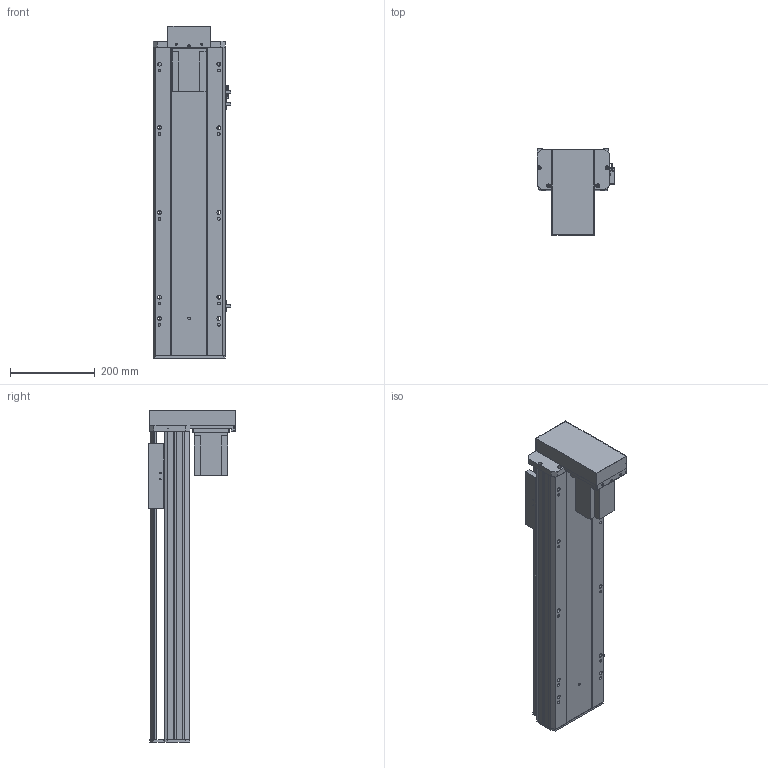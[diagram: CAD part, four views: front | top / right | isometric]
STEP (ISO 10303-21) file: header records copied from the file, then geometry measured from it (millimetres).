
FILE_DESCRIPTION (( 'STEP AP203' ), '1' );
FILE_NAME ('Y170-D10-S500-BM-P750W.STEP', '2020-01-22T02:58:26', ( '微软用户' ), ( '微软中国' ), 'SwSTEP 2.0', 'SolidWorks 2017', '' );
FILE_SCHEMA (( 'CONFIG_CONTROL_DESIGN' ));
Length unit declared in the file: millimetre
Products named in the file (12): Y170-陔遴奻裔-BR; 170-BM耜蚾蟀諉啣; Y170-BM--P750W楊擘啣; -BM俋袗; Y170耜裔--準---; YD-Y100-135-新外置传感挡片(通用）; 170--掛极-BR; Y100-135俋离換覜ん; 侂狟750W; Y170-D10-S500-BM-P750W; EGH20賑輸_蕼偞; Y雄赽釱-耜蚾
Assembly tree (14 placements, depth 2):
  Y170-D10-S500-BM-P750W
    Y170耜裔--準---
    170--掛极-BR
    侂狟750W
    EGH20賑輸_蕼偞  x2
    Y雄赽釱-耜蚾
    Y170-陔遴奻裔-BR
    170-BM耜蚾蟀諉啣
    Y170-BM--P750W楊擘啣
    -BM俋袗
    YD-Y100-135-新外置传感挡片(通用）
    Y100-135俋离換覜ん  x3
Bounding box: 183.5 x 203.5 x 783.5 mm (x, y, z)
Volume: 4195276.8 mm3; surface area: 1389154.1 mm2
Topology: 14 solids, 14 shells, 894 faces, 2508 edges, 1654 vertices
Faces by surface type: cylinder 442, plane 436, cone 16
Entity records: 28106 total; most frequent: CARTESIAN_POINT 4919, DIRECTION 4664, ORIENTED_EDGE 4512, EDGE_CURVE 2256, AXIS2_PLACEMENT_3D 1651, VERTEX_POINT 1498, VECTOR 1362, LINE 1362
